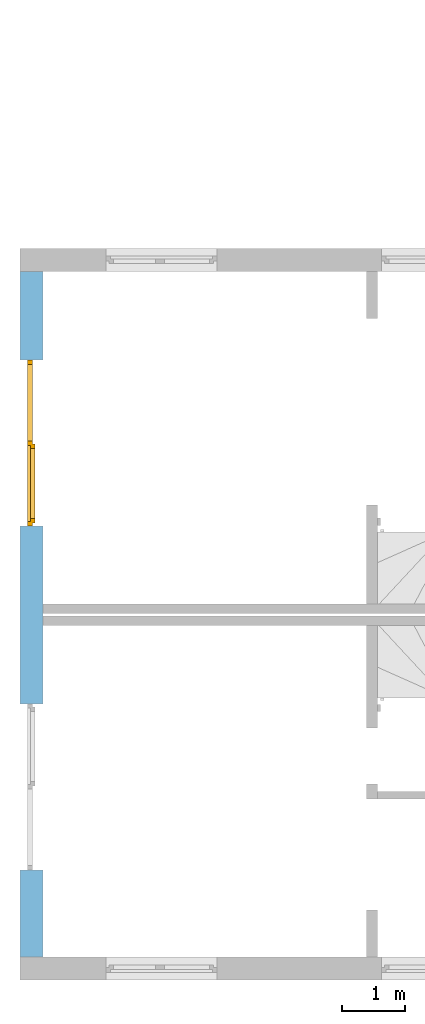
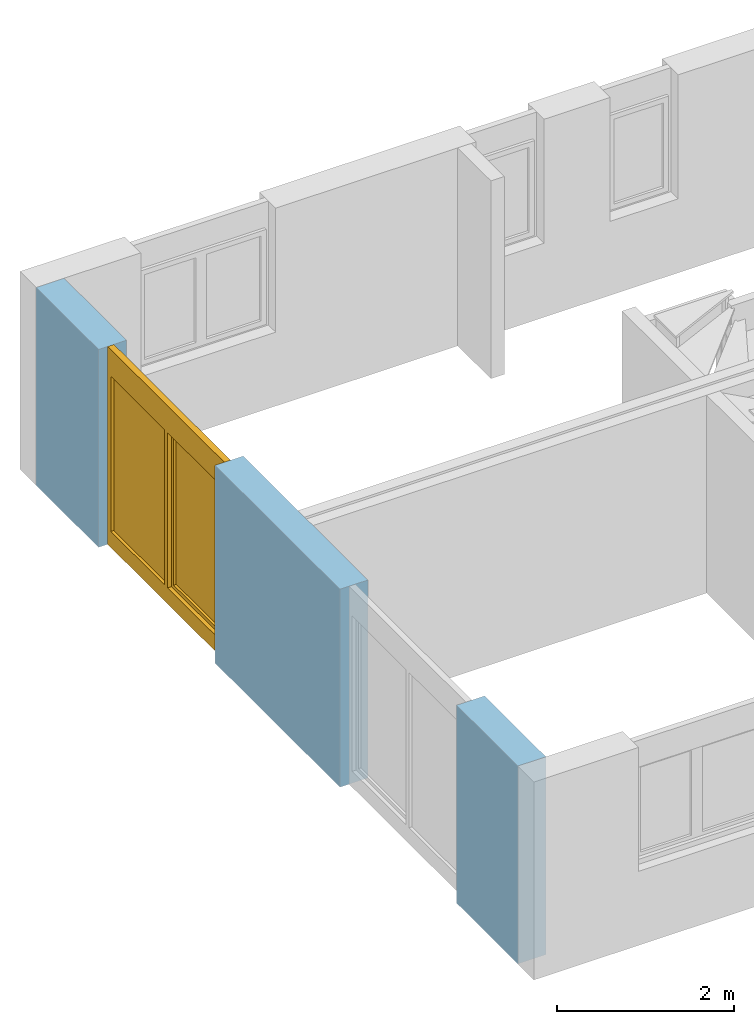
# One storey, part 6 of 41: 1 window, 2 openings, plus 1 element that does not belong to this part.
"""IFC2X3 building model written with IfcOpenShell, lengths in millimetres."""

from ifc_helpers import new_model, entity, si_unit, converted_unit, frame, frame_2d, origin, origin_with_axes, place, context, subcontext, project, spatial, rectangle, extrude, faceted_brep, material, layer, layer_set, layer_usage, type_object, element, fill, save


model = new_model("IFC2X3")

# Units and contexts
model_context = context("Model", 3, precision=1e-05, world=origin())
body_context = subcontext(model_context, "Body", "Model", "MODEL_VIEW")
ifc_project = project(units=[si_unit("LENGTHUNIT", "METRE", prefix="MILLI"), converted_unit("PLANEANGLEUNIT", "DEGREE", entity("IfcPlaneAngleMeasure", 0.0174532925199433), si_unit("PLANEANGLEUNIT", "RADIAN"), dimensions=[0, 0, 0, 0, 0, 0, 0]), si_unit("AREAUNIT", "SQUARE_METRE"), si_unit("VOLUMEUNIT", "CUBIC_METRE")], contexts=[model_context])

# Building, storey
building_placement = place(None, origin())
building = spatial("IfcBuilding", under=ifc_project, at=building_placement, Name="Gebäude", CompositionType="ELEMENT")
storey_placement = place(building_placement, frame((0.0, 0.0, -200.0), z_axis=(0.0, 0.0, 1.0), x_axis=(1.0, 0.0, 0.0)))
storey = spatial("IfcBuildingStorey", under=building, at=storey_placement, Name="EG.- Grundriss", CompositionType="ELEMENT", Elevation=-200.0)

# Wall, openings, window
ifc_material_1 = material(Name="Poroton")
ifc_layer = layer(ifc_material_1, 365.0)
ifc_layer_set = layer_set([ifc_layer])
ifc_layer_usage = layer_usage(ifc_layer_set, "AXIS2", "POSITIVE", 0.0)
wall_placement = place(storey_placement, frame((130992.7928067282, 136524.8877324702, 0.0), z_axis=(0.0, 0.0, 1.0), x_axis=(1.336877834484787e-14, -1.0, 0.0)))
wall = element("IfcWallStandardCase", 1, at=wall_placement, inside=storey, material=ifc_layer_usage, Name="<Unnamed Element>", context=body_context, shape_type="SweptSolid", body=[
    extrude(rectangle(XDim=10884.99999999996, YDim=365.0, at=frame_2d((5442.499999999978, 182.5), x_axis=(1.0, 0.0))), origin_with_axes(), (0.0, 0.0, 1.0), 2730.0),
])
opening_1_placement = place(wall_placement, frame((1409.987487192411, 2.31377272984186e-11, 0.0), z_axis=(0.0, 1.0, 0.0), x_axis=(0.0, 0.0, 1.0)))
opening_1 = element("IfcOpeningElement", 2, at=opening_1_placement, cuts=wall, Name="Fensteröffnung", ObjectType="Opening", context=body_context, shape_type="SweptSolid", body=[
    extrude(rectangle(XDim=2730.0, YDim=2635.0, at=frame_2d((1365.0, 1317.5), x_axis=(1.0, 0.0))), origin_with_axes(), (0.0, 0.0, 1.0), 364.9999999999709),
])
opening_2_placement = place(wall_placement, frame((6864.999999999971, 1.964508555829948e-12, 0.0), z_axis=(0.0, 1.0, 0.0), x_axis=(0.0, 0.0, 1.0)))
element("IfcOpeningElement", 3, at=opening_2_placement, cuts=wall, Name="Fensteröffnung", ObjectType="Opening", context=body_context, shape_type="SweptSolid", body=[
    extrude(rectangle(XDim=2730.0, YDim=2635.0, at=frame_2d((1365.0, 1317.5), x_axis=(1.0, 0.0))), origin_with_axes(), (0.0, 0.0, 1.0), 364.9999999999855),
])
ifc_material_2 = material()
window_style = type_object("IfcWindowStyle", Name="Fenster", ConstructionType="NOTDEFINED", OperationType="USERDEFINED", ParameterTakesPrecedence=False, Sizeable=False)
window_placement = place(opening_1_placement, frame((0.0, 0.0, 0.0), z_axis=(1.0, 0.0, 0.0), x_axis=(0.0, 1.0, 0.0)))
window = element("IfcWindow", 4, at=window_placement, inside=storey, type_object=window_style, material=ifc_material_2, Name="Fenster", OverallHeight=2730.0, OverallWidth=2635.0, context=body_context, shape_type="Brep", body=[
    faceted_brep([(2635.000000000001, 199.9999999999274, 2730.0), (2565.000000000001, 199.9999999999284, 2730.0), (2565.000000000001, 199.9999999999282, -2.449293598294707e-15), (2635.000000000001, 199.9999999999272, -2.449293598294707e-15), (2635.0, 119.9999999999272, 2.449293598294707e-15), (2565.0, 119.9999999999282, 2.449293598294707e-15), (2565.0, 119.9999999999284, 2730.0), (2635.0, 119.9999999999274, 2730.0), (2635.000000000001, 199.9999999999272, -2.449293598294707e-15), (2635.0, 119.9999999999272, 2.449293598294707e-15), (2635.0, 119.9999999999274, 2730.0), (2635.000000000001, 199.9999999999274, 2730.0), (2565.000000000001, 199.9999999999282, -2.449293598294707e-15), (2565.0, 119.9999999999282, 2.449293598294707e-15), (2635.0, 119.9999999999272, 2.449293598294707e-15), (2635.000000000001, 199.9999999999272, -2.449293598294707e-15), (2565.000000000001, 199.9999999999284, 2730.0), (2565.0, 119.9999999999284, 2730.0), (2565.0, 119.9999999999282, 2.449293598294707e-15), (2565.000000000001, 199.9999999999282, -2.449293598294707e-15), (2635.000000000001, 199.9999999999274, 2730.0), (2635.0, 119.9999999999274, 2730.0), (2565.0, 119.9999999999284, 2730.0), (2565.000000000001, 199.9999999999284, 2730.0)], [[[0, 1, 2, 3]], [[4, 5, 6, 7]], [[8, 9, 10, 11]], [[12, 13, 14, 15]], [[16, 17, 18, 19]], [[20, 21, 22, 23]]], orient=[[False], [False], [False], [False], [False], [False]]),
    faceted_brep([(70.00000000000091, 199.9999999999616, 2730.0), (9.094947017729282e-13, 199.9999999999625, 2730.0), (9.094947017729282e-13, 199.9999999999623, -2.449293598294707e-15), (70.00000000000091, 199.9999999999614, -2.449293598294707e-15), (70.0, 119.9999999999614, 2.449293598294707e-15), (0.0, 119.9999999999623, 2.449293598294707e-15), (0.0, 119.9999999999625, 2730.0), (70.0, 119.9999999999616, 2730.0), (70.00000000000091, 199.9999999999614, -2.449293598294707e-15), (70.0, 119.9999999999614, 2.449293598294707e-15), (70.0, 119.9999999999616, 2730.0), (70.00000000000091, 199.9999999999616, 2730.0), (9.094947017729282e-13, 199.9999999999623, -2.449293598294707e-15), (0.0, 119.9999999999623, 2.449293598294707e-15), (70.0, 119.9999999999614, 2.449293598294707e-15), (70.00000000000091, 199.9999999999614, -2.449293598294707e-15), (9.094947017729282e-13, 199.9999999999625, 2730.0), (0.0, 119.9999999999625, 2730.0), (0.0, 119.9999999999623, 2.449293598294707e-15), (9.094947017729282e-13, 199.9999999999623, -2.449293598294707e-15), (70.00000000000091, 199.9999999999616, 2730.0), (70.0, 119.9999999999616, 2730.0), (0.0, 119.9999999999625, 2730.0), (9.094947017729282e-13, 199.9999999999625, 2730.0)], [[[0, 1, 2, 3]], [[4, 5, 6, 7]], [[8, 9, 10, 11]], [[12, 13, 14, 15]], [[16, 17, 18, 19]], [[20, 21, 22, 23]]], orient=[[False], [False], [False], [False], [False], [False]]),
    faceted_brep([(2565.000000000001, 199.9999999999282, 220.0), (70.00000000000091, 199.9999999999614, 220.0), (70.00000000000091, 199.9999999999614, -2.449293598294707e-15), (2565.000000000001, 199.9999999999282, -2.449293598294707e-15), (2565.0, 119.9999999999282, 2.449293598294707e-15), (70.0, 119.9999999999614, 2.449293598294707e-15), (70.0, 119.9999999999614, 220.0), (2565.0, 119.9999999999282, 220.0), (2565.000000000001, 199.9999999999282, -2.449293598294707e-15), (2565.0, 119.9999999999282, 2.449293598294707e-15), (2565.0, 119.9999999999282, 220.0), (2565.000000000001, 199.9999999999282, 220.0), (70.00000000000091, 199.9999999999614, -2.449293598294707e-15), (70.0, 119.9999999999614, 2.449293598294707e-15), (2565.0, 119.9999999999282, 2.449293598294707e-15), (2565.000000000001, 199.9999999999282, -2.449293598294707e-15), (70.00000000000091, 199.9999999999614, 220.0), (70.0, 119.9999999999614, 220.0), (70.0, 119.9999999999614, 2.449293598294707e-15), (70.00000000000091, 199.9999999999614, -2.449293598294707e-15), (2565.000000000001, 199.9999999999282, 220.0), (2565.0, 119.9999999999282, 220.0), (70.0, 119.9999999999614, 220.0), (70.00000000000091, 199.9999999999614, 220.0)], [[[0, 1, 2, 3]], [[4, 5, 6, 7]], [[8, 9, 10, 11]], [[12, 13, 14, 15]], [[16, 17, 18, 19]], [[20, 21, 22, 23]]], orient=[[False], [False], [False], [False], [False], [False]]),
    faceted_brep([(2565.000000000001, 199.9999999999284, 2730.0), (70.00000000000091, 199.9999999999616, 2730.0), (70.00000000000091, 199.9999999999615, 2360.0), (2565.000000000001, 199.9999999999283, 2360.0), (2565.0, 119.9999999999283, 2360.0), (70.0, 119.9999999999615, 2360.0), (70.0, 119.9999999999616, 2730.0), (2565.0, 119.9999999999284, 2730.0), (2565.000000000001, 199.9999999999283, 2360.0), (2565.0, 119.9999999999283, 2360.0), (2565.0, 119.9999999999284, 2730.0), (2565.000000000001, 199.9999999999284, 2730.0), (70.00000000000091, 199.9999999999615, 2360.0), (70.0, 119.9999999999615, 2360.0), (2565.0, 119.9999999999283, 2360.0), (2565.000000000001, 199.9999999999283, 2360.0), (70.00000000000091, 199.9999999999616, 2730.0), (70.0, 119.9999999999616, 2730.0), (70.0, 119.9999999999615, 2360.0), (70.00000000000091, 199.9999999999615, 2360.0), (2565.000000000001, 199.9999999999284, 2730.0), (2565.0, 119.9999999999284, 2730.0), (70.0, 119.9999999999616, 2730.0), (70.00000000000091, 199.9999999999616, 2730.0)], [[[0, 1, 2, 3]], [[4, 5, 6, 7]], [[8, 9, 10, 11]], [[12, 13, 14, 15]], [[16, 17, 18, 19]], [[20, 21, 22, 23]]], orient=[[False], [False], [False], [False], [False], [False]]),
    faceted_brep([(1352.500000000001, 199.9999999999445, 2360.0), (1282.500000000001, 199.9999999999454, 2360.0), (1282.500000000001, 199.9999999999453, 220.0), (1352.500000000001, 199.9999999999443, 220.0), (1352.5, 119.9999999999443, 220.0), (1282.5, 119.9999999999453, 220.0), (1282.5, 119.9999999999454, 2360.0), (1352.5, 119.9999999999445, 2360.0), (1352.500000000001, 199.9999999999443, 220.0), (1352.5, 119.9999999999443, 220.0), (1352.5, 119.9999999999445, 2360.0), (1352.500000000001, 199.9999999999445, 2360.0), (1282.500000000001, 199.9999999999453, 220.0), (1282.5, 119.9999999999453, 220.0), (1352.5, 119.9999999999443, 220.0), (1352.500000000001, 199.9999999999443, 220.0), (1282.500000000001, 199.9999999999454, 2360.0), (1282.5, 119.9999999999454, 2360.0), (1282.5, 119.9999999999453, 220.0), (1282.500000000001, 199.9999999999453, 220.0), (1352.500000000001, 199.9999999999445, 2360.0), (1352.5, 119.9999999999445, 2360.0), (1282.5, 119.9999999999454, 2360.0), (1282.500000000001, 199.9999999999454, 2360.0)], [[[0, 1, 2, 3]], [[4, 5, 6, 7]], [[8, 9, 10, 11]], [[12, 13, 14, 15]], [[16, 17, 18, 19]], [[20, 21, 22, 23]]], orient=[[False], [False], [False], [False], [False], [False]]),
    faceted_brep([(2585.000000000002, 239.9999999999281, 2380.0), (2515.000000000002, 239.999999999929, 2380.0), (2515.000000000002, 239.9999999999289, 200.0), (2585.000000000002, 239.9999999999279, 200.0), (2585.000000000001, 169.9999999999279, 200.0), (2515.000000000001, 169.9999999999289, 200.0), (2515.000000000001, 169.999999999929, 2380.0), (2585.000000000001, 169.9999999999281, 2380.0), (2585.000000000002, 239.9999999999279, 200.0), (2585.000000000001, 169.9999999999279, 200.0), (2585.000000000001, 169.9999999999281, 2380.0), (2585.000000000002, 239.9999999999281, 2380.0), (2515.000000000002, 239.9999999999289, 200.0), (2515.000000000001, 169.9999999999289, 200.0), (2585.000000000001, 169.9999999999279, 200.0), (2585.000000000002, 239.9999999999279, 200.0), (2515.000000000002, 239.999999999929, 2380.0), (2515.000000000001, 169.999999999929, 2380.0), (2515.000000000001, 169.9999999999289, 200.0), (2515.000000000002, 239.9999999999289, 200.0), (2585.000000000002, 239.9999999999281, 2380.0), (2585.000000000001, 169.9999999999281, 2380.0), (2515.000000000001, 169.999999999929, 2380.0), (2515.000000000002, 239.999999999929, 2380.0)], [[[0, 1, 2, 3]], [[4, 5, 6, 7]], [[8, 9, 10, 11]], [[12, 13, 14, 15]], [[16, 17, 18, 19]], [[20, 21, 22, 23]]], orient=[[False], [False], [False], [False], [False], [False]]),
    faceted_brep([(1402.500000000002, 239.9999999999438, 2380.0), (1332.500000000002, 239.9999999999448, 2380.0), (1332.500000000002, 239.9999999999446, 200.0), (1402.500000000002, 239.9999999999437, 200.0), (1402.500000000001, 169.9999999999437, 200.0), (1332.500000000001, 169.9999999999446, 200.0), (1332.500000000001, 169.9999999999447, 2380.0), (1402.500000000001, 169.9999999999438, 2380.0), (1402.500000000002, 239.9999999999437, 200.0), (1402.500000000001, 169.9999999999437, 200.0), (1402.500000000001, 169.9999999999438, 2380.0), (1402.500000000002, 239.9999999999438, 2380.0), (1332.500000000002, 239.9999999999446, 200.0), (1332.500000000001, 169.9999999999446, 200.0), (1402.500000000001, 169.9999999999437, 200.0), (1402.500000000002, 239.9999999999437, 200.0), (1332.500000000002, 239.9999999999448, 2380.0), (1332.500000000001, 169.9999999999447, 2380.0), (1332.500000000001, 169.9999999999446, 200.0), (1332.500000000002, 239.9999999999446, 200.0), (1402.500000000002, 239.9999999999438, 2380.0), (1402.500000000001, 169.9999999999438, 2380.0), (1332.500000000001, 169.9999999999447, 2380.0), (1332.500000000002, 239.9999999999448, 2380.0)], [[[0, 1, 2, 3]], [[4, 5, 6, 7]], [[8, 9, 10, 11]], [[12, 13, 14, 15]], [[16, 17, 18, 19]], [[20, 21, 22, 23]]], orient=[[False], [False], [False], [False], [False], [False]]),
    faceted_brep([(2515.000000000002, 239.9999999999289, 270.0), (1402.500000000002, 239.9999999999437, 270.0), (1402.500000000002, 239.9999999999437, 200.0), (2515.000000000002, 239.9999999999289, 200.0), (2515.000000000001, 169.9999999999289, 200.0), (1402.500000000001, 169.9999999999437, 200.0), (1402.500000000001, 169.9999999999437, 270.0), (2515.000000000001, 169.9999999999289, 270.0), (2515.000000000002, 239.9999999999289, 200.0), (2515.000000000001, 169.9999999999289, 200.0), (2515.000000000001, 169.9999999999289, 270.0), (2515.000000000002, 239.9999999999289, 270.0), (1402.500000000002, 239.9999999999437, 200.0), (1402.500000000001, 169.9999999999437, 200.0), (2515.000000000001, 169.9999999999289, 200.0), (2515.000000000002, 239.9999999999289, 200.0), (1402.500000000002, 239.9999999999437, 270.0), (1402.500000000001, 169.9999999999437, 270.0), (1402.500000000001, 169.9999999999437, 200.0), (1402.500000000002, 239.9999999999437, 200.0), (2515.000000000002, 239.9999999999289, 270.0), (2515.000000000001, 169.9999999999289, 270.0), (1402.500000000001, 169.9999999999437, 270.0), (1402.500000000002, 239.9999999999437, 270.0)], [[[0, 1, 2, 3]], [[4, 5, 6, 7]], [[8, 9, 10, 11]], [[12, 13, 14, 15]], [[16, 17, 18, 19]], [[20, 21, 22, 23]]], orient=[[False], [False], [False], [False], [False], [False]]),
    faceted_brep([(2515.000000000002, 239.999999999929, 2380.0), (1402.500000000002, 239.9999999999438, 2380.0), (1402.500000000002, 239.9999999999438, 2310.0), (2515.000000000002, 239.999999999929, 2310.0), (2515.000000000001, 169.999999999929, 2310.0), (1402.500000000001, 169.9999999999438, 2310.0), (1402.500000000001, 169.9999999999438, 2380.0), (2515.000000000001, 169.999999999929, 2380.0), (2515.000000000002, 239.999999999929, 2310.0), (2515.000000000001, 169.999999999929, 2310.0), (2515.000000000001, 169.999999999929, 2380.0), (2515.000000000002, 239.999999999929, 2380.0), (1402.500000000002, 239.9999999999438, 2310.0), (1402.500000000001, 169.9999999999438, 2310.0), (2515.000000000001, 169.999999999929, 2310.0), (2515.000000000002, 239.999999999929, 2310.0), (1402.500000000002, 239.9999999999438, 2380.0), (1402.500000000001, 169.9999999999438, 2380.0), (1402.500000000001, 169.9999999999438, 2310.0), (1402.500000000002, 239.9999999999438, 2310.0), (2515.000000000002, 239.999999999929, 2380.0), (2515.000000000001, 169.999999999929, 2380.0), (1402.500000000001, 169.9999999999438, 2380.0), (1402.500000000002, 239.9999999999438, 2380.0)], [[[0, 1, 2, 3]], [[4, 5, 6, 7]], [[8, 9, 10, 11]], [[12, 13, 14, 15]], [[16, 17, 18, 19]], [[20, 21, 22, 23]]], orient=[[False], [False], [False], [False], [False], [False]]),
    faceted_brep([(1282.5, 159.9999999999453, 220.0), (1282.5, 159.9999999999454, 2360.0), (70.0, 159.9999999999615, 2360.0), (70.0, 159.9999999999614, 220.0), (1282.5, 158.9999999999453, 220.0), (69.99999999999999, 158.9999999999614, 220.0), (69.99999999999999, 158.9999999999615, 2360.0), (1282.5, 158.9999999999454, 2360.0), (1282.5, 159.9999999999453, 220.0), (1282.5, 158.9999999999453, 220.0), (1282.5, 158.9999999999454, 2360.0), (1282.5, 159.9999999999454, 2360.0), (1282.5, 159.9999999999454, 2360.0), (1282.5, 158.9999999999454, 2360.0), (69.99999999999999, 158.9999999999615, 2360.0), (70.0, 159.9999999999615, 2360.0), (70.0, 159.9999999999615, 2360.0), (69.99999999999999, 158.9999999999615, 2360.0), (69.99999999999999, 158.9999999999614, 220.0), (70.0, 159.9999999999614, 220.0), (70.0, 159.9999999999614, 220.0), (69.99999999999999, 158.9999999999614, 220.0), (1282.5, 158.9999999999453, 220.0), (1282.5, 159.9999999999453, 220.0)], [[[0, 1, 2, 3]], [[4, 5, 6, 7]], [[8, 9, 10, 11]], [[12, 13, 14, 15]], [[16, 17, 18, 19]], [[20, 21, 22, 23]]], orient=[[False], [False], [False], [False], [False], [False]]),
    faceted_brep([(2515.000000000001, 204.9999999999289, 270.0), (2515.000000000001, 204.999999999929, 2310.0), (1402.500000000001, 204.9999999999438, 2310.0), (1402.500000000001, 204.9999999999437, 270.0), (2515.000000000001, 203.9999999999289, 270.0), (1402.500000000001, 203.9999999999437, 270.0), (1402.500000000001, 203.9999999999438, 2310.0), (2515.000000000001, 203.999999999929, 2310.0), (2515.000000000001, 204.9999999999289, 270.0), (2515.000000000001, 203.9999999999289, 270.0), (2515.000000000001, 203.999999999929, 2310.0), (2515.000000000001, 204.999999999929, 2310.0), (2515.000000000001, 204.999999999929, 2310.0), (2515.000000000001, 203.999999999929, 2310.0), (1402.500000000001, 203.9999999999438, 2310.0), (1402.500000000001, 204.9999999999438, 2310.0), (1402.500000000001, 204.9999999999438, 2310.0), (1402.500000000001, 203.9999999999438, 2310.0), (1402.500000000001, 203.9999999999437, 270.0), (1402.500000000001, 204.9999999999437, 270.0), (1402.500000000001, 204.9999999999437, 270.0), (1402.500000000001, 203.9999999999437, 270.0), (2515.000000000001, 203.9999999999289, 270.0), (2515.000000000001, 204.9999999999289, 270.0)], [[[0, 1, 2, 3]], [[4, 5, 6, 7]], [[8, 9, 10, 11]], [[12, 13, 14, 15]], [[16, 17, 18, 19]], [[20, 21, 22, 23]]], orient=[[False], [False], [False], [False], [False], [False]]),
])
fill(opening_1, window)

save(model, "model.ifc")
